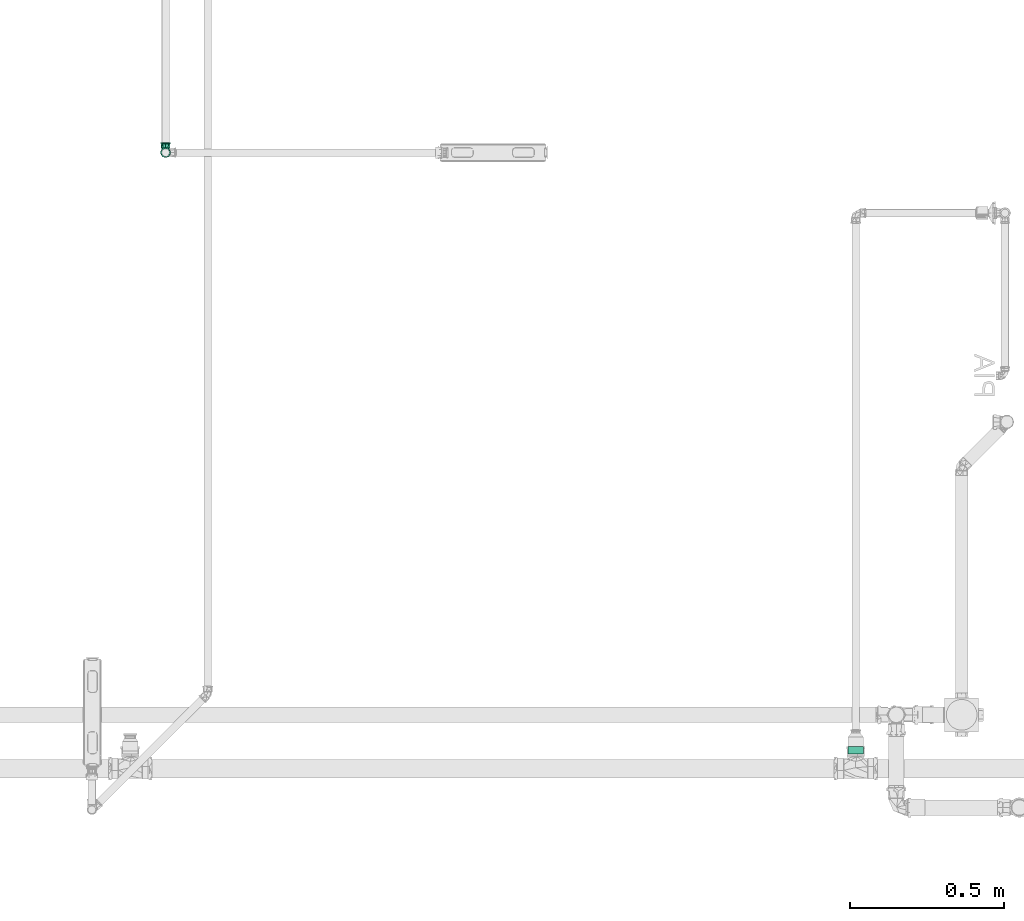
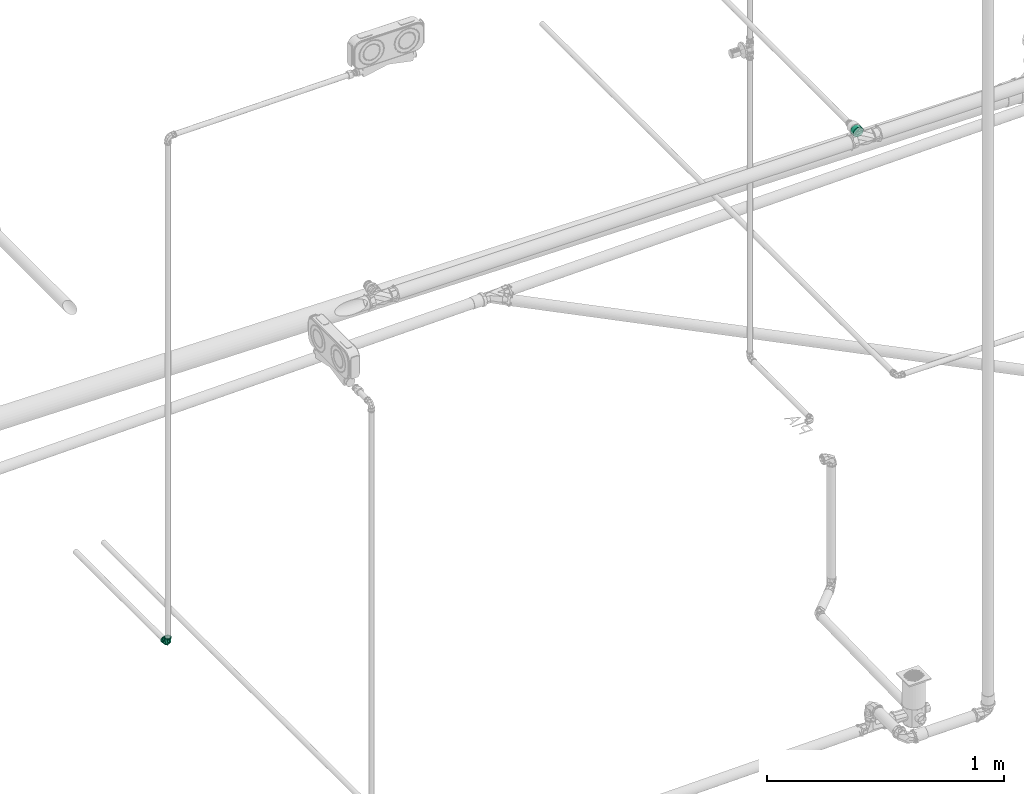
# One storey, part 367 of 589: 1 flow fitting, 1 flow segment.
"""IFC2X3 building model written with IfcOpenShell, lengths in millimetres."""

import ifcopenshell
import ifcopenshell.guid

model = None  # the IFC model being written
_history = None  # IfcOwnerHistory: only IFC2X3 demands one
_inside = {}  # id of a spatial element -> (the spatial element, [elements in it])
_under = {}  # id of a project, library or spatial element -> (it, [spatial elements below it])
_declared = {}  # id of a project -> (the project, [libraries it declares])
_typed = {}  # id of a type object -> (the type object, [elements of that type])
_made_of = {}  # id of a material, layer set ... -> (it, [elements and type objects made of it])


def new_model(schema):
    """Start an empty IFC model of exactly this schema.

    Asked for "IFC4X3", IfcOpenShell would pick the latest addendum, in which some entities
    have other attributes; the version numbers below select the first issue.
    IFC2X3 requires an IfcOwnerHistory on every rooted entity: one is made here for all.
    """
    global model, _history
    if schema == "IFC4X3":
        model = ifcopenshell.file(schema_version=(4, 3, 0, 0))
    else:
        model = ifcopenshell.file(schema=schema)
    _inside.clear()
    _under.clear()
    _declared.clear()
    _typed.clear()
    _made_of.clear()
    _history = None
    if model.schema == "IFC2X3":
        org = make("IfcOrganization", Name="unknown")
        user = make(
            "IfcPersonAndOrganization",
            ThePerson=make("IfcPerson", FamilyName="unknown"),
            TheOrganization=org,
        )
        app = make(
            "IfcApplication",
            ApplicationDeveloper=org,
            Version="unknown",
            ApplicationFullName="unknown",
            ApplicationIdentifier="unknown",
        )
        _history = make(
            "IfcOwnerHistory",
            OwningUser=user,
            OwningApplication=app,
            ChangeAction="ADDED",
            CreationDate=0,
        )
    return model


def make(cls, **values):
    """One entity of the class cls with the attributes given. An attribute that is None is left unset."""
    return model.create_entity(
        cls, **{name: value for name, value in values.items() if value is not None}
    )


def entity(cls, *values):
    """Any entity or typed value of the class cls, its attributes in the order of the schema. None: left unset."""
    e = model.create_entity(cls)
    for i, value in enumerate(values):
        if value is not None:
            e[i] = value
    return e


def rooted(cls, **values):
    """An entity with a GlobalId (a new one), such as an element, a storey or a relation."""
    return make(cls, GlobalId=ifcopenshell.guid.new(), OwnerHistory=_history, **values)


def si_unit(unit_type, name, prefix=None):
    """IfcSIUnit, for example si_unit("LENGTHUNIT", "METRE", prefix="MILLI")."""
    return make("IfcSIUnit", UnitType=unit_type, Prefix=prefix, Name=name)


def converted_unit(unit_type, name, factor, base, dimensions=None, offset=None):
    """IfcConversionBasedUnit, such as the inch: factor (a typed value) times the base unit."""
    return make(
        "IfcConversionBasedUnit"
        if offset is None
        else "IfcConversionBasedUnitWithOffset",
        ConversionOffset=offset,
        Dimensions=None
        if dimensions is None
        else entity("IfcDimensionalExponents", *dimensions),
        UnitType=unit_type,
        Name=name,
        ConversionFactor=make(
            "IfcMeasureWithUnit", ValueComponent=factor, UnitComponent=base
        ),
    )


def derived_unit(unit_type, elements):
    """IfcDerivedUnit: a product of units, each with its exponent."""
    return make(
        "IfcDerivedUnit",
        Elements=[
            make("IfcDerivedUnitElement", Unit=unit, Exponent=power)
            for unit, power in elements
        ],
        UnitType=unit_type,
    )


def assignment(units):
    """IfcUnitAssignment: the units of a project."""
    return None if units is None else make("IfcUnitAssignment", Units=units)


def point(xyz):
    """IfcCartesianPoint."""
    return None if xyz is None else make("IfcCartesianPoint", Coordinates=xyz)


def direction(xyz):
    """IfcDirection."""
    return None if xyz is None else make("IfcDirection", DirectionRatios=xyz)


def frame(location, z_axis=None, x_axis=None):
    """IfcAxis2Placement3D, a coordinate frame: its origin and axes. An axis left out is left unset."""
    return make(
        "IfcAxis2Placement3D",
        Location=point(location),
        Axis=direction(z_axis),
        RefDirection=direction(x_axis),
    )


def frame_2d(location, x_axis=None):
    """IfcAxis2Placement2D, a coordinate frame in the plane: its origin and x axis."""
    return make(
        "IfcAxis2Placement2D", Location=point(location), RefDirection=direction(x_axis)
    )


def origin():
    """The frame at (0, 0, 0) with its axes left unset."""
    return frame((0.0, 0.0, 0.0))


def origin_2d_with_axis():
    """The frame at (0, 0) in the plane with the x axis (1, 0) written out."""
    return frame_2d((0.0, 0.0), x_axis=(1.0, 0.0))


def place(relative_to, where):
    """IfcLocalPlacement: puts the frame where relative to a parent placement (None: the world)."""
    return make(
        "IfcLocalPlacement", PlacementRelTo=relative_to, RelativePlacement=where
    )


def context(
    kind, dimensions, precision=None, world=None, true_north=None, identifier=None
):
    """IfcGeometricRepresentationContext, for example the 3D "Model" context."""
    return make(
        "IfcGeometricRepresentationContext",
        ContextIdentifier=identifier,
        ContextType=kind,
        CoordinateSpaceDimension=dimensions,
        Precision=precision,
        WorldCoordinateSystem=world,
        TrueNorth=true_north,
    )


def subcontext(parent, identifier, kind, view, scale=None):
    """IfcGeometricRepresentationSubContext, for example "Body" below "Model"."""
    return make(
        "IfcGeometricRepresentationSubContext",
        ContextIdentifier=identifier,
        ContextType=kind,
        ParentContext=parent,
        TargetScale=scale,
        TargetView=view,
    )


def project(units=None, contexts=None):
    """IfcProject with its units and contexts."""
    return rooted(
        "IfcProject",
        Name="project",
        RepresentationContexts=contexts,
        UnitsInContext=assignment(units),
    )


def spatial(cls, under=None, at=None, **own):
    """A site, building, storey or space (cls), placed at a placement, below another one or the project."""
    s = rooted(cls, ObjectPlacement=at, **own)
    if under is not None:
        _under.setdefault(under.id(), (under, []))[1].append(s)
    return s


def profile(cls, at=None, kind="AREA", **sizes):
    """A parametric profile (cls). Its sizes go by their IFC names, for example OverallWidth=200.0."""
    return make(cls, ProfileType=kind, Position=at, **sizes)


def circle(**sizes):
    """IfcCircleProfileDef."""
    return profile("IfcCircleProfileDef", **sizes)


def extrude(swept, where, along, depth):
    """IfcExtrudedAreaSolid: the profile swept, set in the frame where, extruded along a direction by depth."""
    return make(
        "IfcExtrudedAreaSolid",
        SweptArea=swept,
        Position=where,
        ExtrudedDirection=direction(along),
        Depth=depth,
    )


def faces_of(points, faces, orient=None, outer=None):
    """IfcFace entities. A face is a list of loops; a loop is a list of indices into points, from 0.

    orient and outer hold one flag for each loop. By default every Orientation is true, the
    first loop of a face is its IfcFaceOuterBound and the others are IfcFaceBound.
    """
    made = []
    for i, loops in enumerate(faces):
        bounds = []
        for j, loop in enumerate(loops):
            is_outer = j == 0 if outer is None else outer[i][j]
            bounds.append(
                make(
                    "IfcFaceOuterBound" if is_outer else "IfcFaceBound",
                    Bound=make("IfcPolyLoop", Polygon=[points[k] for k in loop]),
                    Orientation=True if orient is None else orient[i][j],
                )
            )
        made.append(make("IfcFace", Bounds=bounds))
    return made


def faceted_brep(points, faces, orient=None, outer=None, voids=None):
    """IfcFacetedBrep: a solid bounded by flat faces; with voids (closed shells), ...WithVoids."""
    shared = [point(p) for p in points]
    hull = make("IfcClosedShell", CfsFaces=faces_of(shared, faces, orient, outer))
    if voids is None:
        return make("IfcFacetedBrep", Outer=hull)
    return make(
        "IfcFacetedBrepWithVoids",
        Outer=hull,
        Voids=[
            make(cls, CfsFaces=faces_of(shared, fs, o, b)) for cls, fs, o, b in voids
        ],
    )


def shape(context_of_items, identifier, shape_type, items):
    """IfcShapeRepresentation: the items that make up one representation, for example the "Body"."""
    return make(
        "IfcShapeRepresentation",
        ContextOfItems=context_of_items,
        RepresentationIdentifier=identifier,
        RepresentationType=shape_type,
        Items=items,
    )


def source(mapping_origin, context_of_items, identifier, shape_type, items):
    """IfcRepresentationMap: a shape defined once, which mapped items show again and again."""
    return make(
        "IfcRepresentationMap",
        MappingOrigin=mapping_origin,
        MappedRepresentation=shape(context_of_items, identifier, shape_type, items),
    )


def transform(
    local_origin,
    x_axis=None,
    y_axis=None,
    z_axis=None,
    scale=None,
    scale2=None,
    scale3=None,
    uniform=True,
):
    """IfcCartesianTransformationOperator3D, or its non-uniform kind. x_axis, y_axis, z_axis: its Axis1, 2, 3."""
    if uniform:
        return make(
            "IfcCartesianTransformationOperator3D",
            Axis1=direction(x_axis),
            Axis2=direction(y_axis),
            LocalOrigin=point(local_origin),
            Scale=scale,
            Axis3=direction(z_axis),
        )
    return make(
        "IfcCartesianTransformationOperator3DnonUniform",
        Axis1=direction(x_axis),
        Axis2=direction(y_axis),
        LocalOrigin=point(local_origin),
        Scale=scale,
        Axis3=direction(z_axis),
        Scale2=scale2,
        Scale3=scale3,
    )


def mapped(mapping_source, mapping_target):
    """IfcMappedItem: shows the shape of a source again, moved by a transform."""
    return make(
        "IfcMappedItem", MappingSource=mapping_source, MappingTarget=mapping_target
    )


def material(Name=None, Category=None):
    """IfcMaterial."""
    return make("IfcMaterial", Name=Name, Category=Category)


def made_of(thing, what):
    """Note that an element or type object is made of a material, layer set ...; save() writes the relation."""
    if what is not None:
        _made_of.setdefault(what.id(), (what, []))[1].append(thing)
    return thing


def type_object(cls, material=None, **own):
    """A type object (cls), such as IfcWallType, which elements share."""
    return made_of(rooted(cls, **own), material)


def type_shapes(of_type, sources):
    """Give a type object the sources (RepresentationMaps) that its elements show as mapped items."""
    of_type.RepresentationMaps = sources


def element(
    cls,
    number,
    at=None,
    inside=None,
    cuts=None,
    type_object=None,
    material=None,
    context=None,
    identifier="Body",
    shape_type=None,
    held_by="IfcProductDefinitionShape",
    body=None,
    shapes=None,
    **own,
):
    """One element of the class cls, such as IfcWall. Its Tag is "e" and its number.

    at: its placement. inside: the storey or other place that contains it. cuts: it is an
    opening in that element (IfcRelVoidsElement). A single representation is given by context,
    identifier, shape_type and body (its items); several are given by shapes. held_by: the class
    of the entity that holds the representations. save() writes the other relations.
    """
    e = rooted(cls, Tag="e%d" % number, ObjectPlacement=at, **own)
    if body is not None:
        shapes = [shape(context, identifier, shape_type, body)]
    if shapes is not None:
        e.Representation = make(held_by, Representations=shapes)
    if inside is not None:
        _inside.setdefault(inside.id(), (inside, []))[1].append(e)
    if cuts is not None:
        rooted(
            "IfcRelVoidsElement", RelatingBuildingElement=cuts, RelatedOpeningElement=e
        )
    if type_object is not None:
        _typed.setdefault(type_object.id(), (type_object, []))[1].append(e)
    return made_of(e, material)


def aggregate(whole, parts):
    """IfcRelAggregates: a whole, such as a stair, and the parts it consists of."""
    return rooted("IfcRelAggregates", RelatingObject=whole, RelatedObjects=parts)


def save(model, path):
    """Write the relations noted so far, then the file.

    IfcRelAggregates (storeys below a building ...), IfcRelContainedInSpatialStructure (elements
    in a storey), IfcRelDefinesByType, IfcRelAssociatesMaterial and IfcRelDeclares: one each for
    every whole, place, type object, material and project.
    """
    for whole, parts in _under.values():
        aggregate(whole, parts)
    for where, things in _inside.values():
        rooted(
            "IfcRelContainedInSpatialStructure",
            RelatedElements=things,
            RelatingStructure=where,
        )
    for kind, things in _typed.values():
        rooted("IfcRelDefinesByType", RelatedObjects=things, RelatingType=kind)
    for what, things in _made_of.values():
        rooted("IfcRelAssociatesMaterial", RelatedObjects=things, RelatingMaterial=what)
    for by, libraries in _declared.values():
        rooted("IfcRelDeclares", RelatingContext=by, RelatedDefinitions=libraries)
    model.write(path)


model = new_model("IFC2X3")

# Units and contexts
model_context = context("Model", 3, precision=0.01, world=origin(), true_north=direction((6.123031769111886e-17, 1.0)))
body_context = subcontext(model_context, "Body", "Model", "MODEL_VIEW")
ifc_project = project(units=[si_unit("LENGTHUNIT", "METRE", prefix="MILLI"), si_unit("AREAUNIT", "SQUARE_METRE"), si_unit("VOLUMEUNIT", "CUBIC_METRE"), converted_unit("PLANEANGLEUNIT", "DEGREE", entity("IfcRatioMeasure", 0.017453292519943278), si_unit("PLANEANGLEUNIT", "RADIAN"), dimensions=[0, 0, 0, 0, 0, 0, 0]), si_unit("MASSUNIT", "GRAM", prefix="KILO"), derived_unit("MASSDENSITYUNIT", [(si_unit("MASSUNIT", "GRAM", prefix="KILO"), 1), (si_unit("LENGTHUNIT", "METRE"), -3)]), derived_unit("IONCONCENTRATIONUNIT", [(si_unit("MASSUNIT", "GRAM", prefix="KILO"), 1), (si_unit("LENGTHUNIT", "METRE"), -3)]), derived_unit("MOMENTOFINERTIAUNIT", [(si_unit("LENGTHUNIT", "METRE"), 4)]), si_unit("TIMEUNIT", "SECOND"), si_unit("FREQUENCYUNIT", "HERTZ"), si_unit("THERMODYNAMICTEMPERATUREUNIT", "DEGREE_CELSIUS"), derived_unit("THERMALTRANSMITTANCEUNIT", [(si_unit("MASSUNIT", "GRAM", prefix="KILO"), 1), (si_unit("THERMODYNAMICTEMPERATUREUNIT", "KELVIN"), -1), (si_unit("TIMEUNIT", "SECOND"), -3)]), derived_unit("THERMALCONDUCTANCEUNIT", [(si_unit("MASSUNIT", "GRAM", prefix="KILO"), 1), (si_unit("THERMODYNAMICTEMPERATUREUNIT", "KELVIN"), -1), (si_unit("TIMEUNIT", "SECOND"), -3), (si_unit("LENGTHUNIT", "METRE"), 1)]), derived_unit("VOLUMETRICFLOWRATEUNIT", [(si_unit("LENGTHUNIT", "METRE"), 3), (si_unit("TIMEUNIT", "SECOND"), -1)]), derived_unit("MASSFLOWRATEUNIT", [(si_unit("MASSUNIT", "GRAM", prefix="KILO"), 1), (si_unit("TIMEUNIT", "SECOND"), -1)]), derived_unit("ROTATIONALFREQUENCYUNIT", [(si_unit("TIMEUNIT", "SECOND"), -1)]), si_unit("ELECTRICCURRENTUNIT", "AMPERE"), si_unit("ELECTRICVOLTAGEUNIT", "VOLT"), si_unit("POWERUNIT", "WATT"), si_unit("FORCEUNIT", "NEWTON", prefix="KILO"), si_unit("ILLUMINANCEUNIT", "LUX"), si_unit("LUMINOUSFLUXUNIT", "LUMEN"), si_unit("LUMINOUSINTENSITYUNIT", "CANDELA"), derived_unit("USERDEFINED", [(si_unit("MASSUNIT", "GRAM", prefix="KILO"), -1), (si_unit("LENGTHUNIT", "METRE"), -2), (si_unit("TIMEUNIT", "SECOND"), 3), (si_unit("LUMINOUSFLUXUNIT", "LUMEN"), 1)]), derived_unit("USERDEFINED", [(si_unit("MASSUNIT", "GRAM", prefix="KILO"), 1), (si_unit("TIMEUNIT", "SECOND"), -3), (si_unit("LENGTHUNIT", "METRE"), 3), (si_unit("ELECTRICCURRENTUNIT", "AMPERE"), -2)]), derived_unit("SOUNDPOWERUNIT", [(si_unit("MASSUNIT", "GRAM", prefix="KILO"), 1), (si_unit("TIMEUNIT", "SECOND"), -3), (si_unit("LENGTHUNIT", "METRE"), 2)]), derived_unit("SOUNDPRESSUREUNIT", [(si_unit("MASSUNIT", "GRAM", prefix="KILO"), 1), (si_unit("LENGTHUNIT", "METRE"), -1), (si_unit("TIMEUNIT", "SECOND"), -2)]), derived_unit("LINEARVELOCITYUNIT", [(si_unit("LENGTHUNIT", "METRE"), 1), (si_unit("TIMEUNIT", "SECOND"), -1)]), si_unit("PRESSUREUNIT", "PASCAL"), derived_unit("USERDEFINED", [(si_unit("MASSUNIT", "GRAM", prefix="KILO"), 1), (si_unit("LENGTHUNIT", "METRE"), -2), (si_unit("TIMEUNIT", "SECOND"), -2)]), derived_unit("LINEARFORCEUNIT", [(si_unit("MASSUNIT", "GRAM", prefix="KILO"), 1), (si_unit("TIMEUNIT", "SECOND"), -2)]), derived_unit("PLANARFORCEUNIT", [(si_unit("MASSUNIT", "GRAM", prefix="KILO"), 1), (si_unit("LENGTHUNIT", "METRE"), -1), (si_unit("TIMEUNIT", "SECOND"), -2)]), derived_unit("SPECIFICHEATCAPACITYUNIT", [(si_unit("THERMODYNAMICTEMPERATUREUNIT", "KELVIN"), -1), (si_unit("LENGTHUNIT", "METRE"), 2), (si_unit("TIMEUNIT", "SECOND"), -2)]), derived_unit("HEATINGVALUEUNIT", [(si_unit("LENGTHUNIT", "METRE"), 2), (si_unit("TIMEUNIT", "SECOND"), -2)]), derived_unit("VAPORPERMEABILITYUNIT", [(si_unit("LENGTHUNIT", "METRE"), -1), (si_unit("TIMEUNIT", "SECOND"), 1)]), derived_unit("DYNAMICVISCOSITYUNIT", [(si_unit("MASSUNIT", "GRAM", prefix="KILO"), 1), (si_unit("TIMEUNIT", "SECOND"), -1), (si_unit("LENGTHUNIT", "METRE"), -1)]), derived_unit("THERMALEXPANSIONCOEFFICIENTUNIT", [(si_unit("THERMODYNAMICTEMPERATUREUNIT", "KELVIN"), -1)]), derived_unit("MODULUSOFELASTICITYUNIT", [(si_unit("MASSUNIT", "GRAM", prefix="KILO"), 1), (si_unit("LENGTHUNIT", "METRE"), -1), (si_unit("TIMEUNIT", "SECOND"), -2)]), derived_unit("ISOTHERMALMOISTURECAPACITYUNIT", [(si_unit("LENGTHUNIT", "METRE"), 3), (si_unit("MASSUNIT", "GRAM", prefix="KILO"), -1)]), derived_unit("MOISTUREDIFFUSIVITYUNIT", [(si_unit("TIMEUNIT", "SECOND"), -1), (si_unit("LENGTHUNIT", "METRE"), 2)])], contexts=[model_context])

# Site, building, storey
site_placement = place(None, origin())
site = spatial("IfcSite", under=ifc_project, at=site_placement, Name="Default", CompositionType="ELEMENT")
building_placement = place(site_placement, origin())
building = spatial("IfcBuilding", under=site, at=building_placement, CompositionType="ELEMENT")
storey_placement = place(building_placement, frame((0.0, 0.0, 100.0)))
storey = spatial("IfcBuildingStorey", under=building, at=storey_placement, Name="TÉRREO", CompositionType="ELEMENT", Elevation=100.0)

# Flow segment
pipe_segment_type = type_object("IfcPipeSegmentType", Name="Tipos de tubos:PVC Marrom Soldável", PredefinedType="NOTDEFINED")
flow_segment_placement = place(storey_placement, origin())
element("IfcFlowSegment", 1, at=flow_segment_placement, inside=storey, type_object=pipe_segment_type, Name="Tipos de tubos:PVC Marrom Soldável", ObjectType="Tipos de tubos:PVC Marrom Soldável", context=body_context, shape_type="SweptSolid", body=[
    extrude(circle(Radius=25.0, at=origin_2d_with_axis()), frame((-3231.759862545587, -480.92413776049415, 3000.0), z_axis=(0.0, 1.0, 0.0), x_axis=(1.0, 0.0, 0.0)), (0.0, 0.0, 1.0), 23.40000000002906),
])

# Flow fitting
ifc_material = material(Name="PVC Marrom")
pipe_fitting_type = type_object("IfcPipeFittingType", Name="PVC Marrom Soldável_Joelho 45°_90°_Rodrigo MEP:Joelho", PredefinedType="NOTDEFINED", material=ifc_material)
shared_shape = source(origin(), body_context, "Body", "Brep", [
    faceted_brep([(3.908167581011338, 15.40000000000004, 14.585479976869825), (13.076983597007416, 15.40000000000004, 7.549999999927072), (15.099999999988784, 15.40000000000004, 0.0), (13.076983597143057, 15.40000000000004, -7.55000000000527), (3.9081675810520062, 15.40000000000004, -14.585479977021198), (-3.9081675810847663, 15.40000000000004, -14.585479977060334), (-13.076983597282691, 15.40000000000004, -7.550000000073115), (-15.100000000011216, 15.40000000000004, 0.0), (-13.076983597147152, 15.40000000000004, 7.549999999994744), (-3.908167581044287, 15.40000000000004, 14.585479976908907), (-3.633819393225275, 14.30000000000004, 13.561598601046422), (-12.158996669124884, 14.30000000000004, 7.0199999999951), (-14.040000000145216, 14.30000000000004, 0.0), (-12.158996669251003, 14.30000000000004, -7.020000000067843), (-3.6338193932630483, 14.30000000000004, -13.561598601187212), (3.6338193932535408, 14.30000000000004, -13.561598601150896), (12.158996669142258, 14.30000000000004, -7.020000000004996), (14.039999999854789, 14.30000000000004, 0.0), (12.158996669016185, 14.30000000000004, 7.0199999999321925), (3.6338193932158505, 14.30000000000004, 13.561598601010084)], [[[0, 1, 2, 3, 4, 5, 6, 7, 8, 9]], [[10, 11, 12, 13, 14, 15, 16, 17, 18, 19]], [[3, 17, 16]], [[4, 3, 16, 15]], [[3, 2, 17]], [[15, 14, 5, 4]], [[6, 5, 14, 13]], [[7, 13, 12]], [[7, 6, 13]], [[8, 12, 11]], [[9, 8, 11, 10]], [[8, 7, 12]], [[10, 19, 0, 9]], [[1, 0, 19, 18]], [[2, 18, 17]], [[2, 1, 18]]]),
    faceted_brep([(-15.399999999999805, 3.908167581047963, 14.585479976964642), (-15.399999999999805, 13.076983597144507, 7.549999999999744), (-15.399999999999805, 15.100000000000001, 0.0), (-15.399999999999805, 13.076983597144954, -7.54999999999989), (-15.399999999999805, 3.9081675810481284, -14.58547997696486), (-15.399999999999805, -3.9081675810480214, -14.585479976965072), (-15.399999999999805, -13.0769835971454, -7.550000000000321), (-15.399999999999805, -15.099999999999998, 0.0), (-15.399999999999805, -13.076983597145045, 7.550000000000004), (-15.399999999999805, -3.908167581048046, 14.585479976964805), (-14.299999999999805, 12.158996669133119, 7.019999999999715), (-14.299999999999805, 3.6338193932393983, 13.561598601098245), (-14.299999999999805, -3.633819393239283, 13.56159860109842), (-14.299999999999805, -12.15899666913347, 7.020000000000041), (-14.299999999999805, -14.040000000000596, 0.0), (-14.299999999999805, -12.158996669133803, -7.020000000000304), (-14.299999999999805, -3.63381939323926, -13.561598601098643), (-14.299999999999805, 3.6338193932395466, -13.56159860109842), (-14.299999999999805, 12.158996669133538, -7.019999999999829), (-14.299999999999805, 14.03999999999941, 0.0)], [[[0, 1, 2, 3, 4, 5, 6, 7, 8, 9]], [[10, 11, 12, 13, 14, 15, 16, 17, 18, 19]], [[3, 2, 19, 18]], [[4, 3, 18, 17]], [[17, 16, 5, 4]], [[6, 5, 16, 15]], [[7, 6, 15, 14]], [[8, 7, 14, 13]], [[9, 8, 13, 12]], [[12, 11, 0, 9]], [[1, 0, 11, 10]], [[2, 1, 10, 19]]]),
    faceted_brep([(-33.4999999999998, -4.2705142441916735, -15.937776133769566), (-33.4999999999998, -6.250000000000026, -10.825317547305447), (-33.4999999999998, 0.0, -12.5), (-33.4999999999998, -14.289419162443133, -8.25000000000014), (-33.4999999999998, 4.270514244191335, -15.937776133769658), (-33.4999999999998, -12.074072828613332, -3.23523806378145), (-33.4999999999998, -16.499999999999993, 0.0), (-33.4999999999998, -12.074072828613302, 3.2352380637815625), (-33.4999999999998, -14.289419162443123, 8.249999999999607), (-33.4999999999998, -6.249999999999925, 10.825317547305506), (-33.4999999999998, -4.27051424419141, 15.937776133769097), (-33.4999999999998, 0.0, 12.5), (-33.4999999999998, 4.270514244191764, 15.937776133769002), (-33.4999999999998, 6.249999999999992, 10.825317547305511), (-33.4999999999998, 14.28941916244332, 8.249999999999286), (-33.4999999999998, 12.074072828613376, 3.2352380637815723), (-33.4999999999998, 16.500000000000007, 0.0), (-33.4999999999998, 12.074072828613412, -3.235238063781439), (-33.4999999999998, 14.289419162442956, -8.250000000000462), (-33.4999999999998, 6.250000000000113, -10.82531754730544), (-29.499999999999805, 16.5, 0.0), (-29.500000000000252, 12.639142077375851, 10.606700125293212), (-29.50000000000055, 2.8633833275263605, 16.249647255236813), (-29.50000000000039, -12.64180232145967, 10.603529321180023), (-29.499999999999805, -16.499999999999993, 0.0), (-29.500000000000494, -4.889209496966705, 13.426588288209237), (-29.49999999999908, -12.641802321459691, -10.603529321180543), (-29.49999999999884, -2.8674593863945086, -16.24892847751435), (-29.499999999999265, 12.639142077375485, -10.606700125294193), (-29.499999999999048, 4.885841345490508, -13.427814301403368), (-28.099999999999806, -15.099999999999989, 0.0), (-28.10000000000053, -11.56916454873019, 9.703835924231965), (-28.100000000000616, -4.474367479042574, 12.287362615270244), (-28.1000000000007, 2.6204295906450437, 14.870889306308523), (-28.100000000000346, 11.566730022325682, 9.706737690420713), (-28.09999999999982, 15.099999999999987, 0.0), (-28.099999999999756, 11.566730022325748, -9.706737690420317), (-28.09999999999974, 4.4712851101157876, -12.28848460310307), (-28.09999999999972, -2.6241598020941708, -14.870231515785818), (-28.09999999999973, -11.569164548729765, -9.703835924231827), (-15.399999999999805, 0.0, -12.5), (-15.399999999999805, -6.250000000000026, -10.825317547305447), (-15.399999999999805, -3.908167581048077, -14.585479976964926), (-15.399999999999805, 3.9081675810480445, -14.585479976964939), (-15.399999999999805, 6.250000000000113, -10.82531754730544), (-15.399999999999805, -13.076983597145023, -7.549999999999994), (-15.399999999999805, -12.074072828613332, -3.23523806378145), (-15.399999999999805, -15.099999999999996, 0.0), (-15.399999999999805, -12.074072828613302, 3.2352380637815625), (-15.399999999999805, -13.076983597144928, 7.550000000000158), (-15.399999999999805, -6.249999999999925, 10.825317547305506), (-15.399999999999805, -3.9081675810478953, 14.585479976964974), (-15.399999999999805, 0.0, 12.5), (-15.399999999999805, 3.9081675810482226, 14.58547997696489), (-15.399999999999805, 6.249999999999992, 10.825317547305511), (-15.399999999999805, 13.076983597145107, 7.549999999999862), (-15.399999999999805, 12.074072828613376, 3.2352380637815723), (-15.399999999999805, 15.100000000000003, 0.0), (-15.399999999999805, 12.074072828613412, -3.235238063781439), (-15.399999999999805, 13.076983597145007, -7.550000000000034)], [[[0, 1, 2]], [[1, 0, 3]], [[2, 4, 0]], [[3, 5, 1]], [[3, 6, 5]], [[5, 6, 7]], [[8, 7, 6]], [[7, 8, 9]], [[10, 9, 8]], [[9, 10, 11]], [[11, 10, 12]], [[12, 13, 11]], [[14, 13, 12]], [[13, 14, 15]], [[16, 15, 14]], [[16, 17, 15]], [[18, 17, 16]], [[19, 17, 18]], [[19, 18, 4]], [[4, 2, 19]], [[16, 14, 20]], [[14, 21, 20]], [[21, 14, 12]], [[21, 12, 22]], [[23, 10, 8]], [[24, 8, 6]], [[10, 23, 25, 22]], [[23, 8, 24]], [[10, 22, 12]], [[6, 3, 24]], [[3, 26, 24]], [[26, 3, 0]], [[26, 0, 27]], [[28, 4, 18]], [[20, 18, 16]], [[4, 28, 29, 27]], [[28, 18, 20]], [[4, 27, 0]], [[30, 31, 23, 24]], [[31, 32, 33, 22, 25, 23]], [[34, 35, 20, 21]], [[34, 21, 22, 33]], [[35, 36, 28, 20]], [[36, 37, 38, 27, 29, 28]], [[39, 30, 24, 26]], [[39, 26, 27, 38]], [[40, 41, 42]], [[42, 43, 40]], [[44, 40, 43]], [[45, 42, 41]], [[41, 46, 45]], [[46, 47, 45]], [[48, 47, 46]], [[47, 48, 49]], [[50, 49, 48]], [[49, 50, 51]], [[52, 51, 50]], [[53, 51, 52]], [[52, 54, 53]], [[53, 54, 55]], [[56, 55, 54]], [[55, 56, 57]], [[56, 58, 57]], [[59, 58, 44]], [[57, 58, 59]], [[43, 59, 44]], [[35, 34, 55]], [[35, 55, 57]], [[55, 34, 53]], [[34, 33, 53]], [[51, 33, 32, 31]], [[49, 31, 30]], [[31, 49, 51]], [[49, 30, 47]], [[33, 51, 53]], [[30, 39, 45]], [[30, 45, 47]], [[45, 39, 42]], [[39, 38, 42]], [[43, 38, 37, 36]], [[59, 36, 35]], [[36, 59, 43]], [[59, 35, 57]], [[38, 43, 42]], [[9, 11, 52, 50]], [[7, 9, 50, 48]], [[48, 46, 5, 7]], [[1, 5, 46, 41]], [[2, 1, 41, 40]], [[19, 2, 40, 44]], [[17, 19, 44, 58]], [[58, 56, 15, 17]], [[13, 15, 56, 54]], [[11, 13, 54, 52]]]),
    faceted_brep([(-14.299999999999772, -3.6338193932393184, -13.561598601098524), (-14.299999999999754, -12.158996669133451, -7.020000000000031), (-14.29999999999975, -14.039999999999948, 0.0), (-14.299999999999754, -12.158996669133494, 7.019999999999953), (-14.299999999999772, -3.6338193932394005, 13.561598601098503), (-14.299999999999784, 3.633819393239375, 13.561598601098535), (-14.299999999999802, 12.158996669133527, 7.0200000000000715), (-14.299999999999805, 14.04000000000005, 0.0), (-14.299999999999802, 12.158996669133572, -7.019999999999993), (-14.299999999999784, 3.63381939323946, -13.561598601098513), (3.633819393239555, 14.29999999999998, -13.561598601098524), (-3.633819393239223, 14.300000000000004, -13.561598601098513), (-12.158996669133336, 14.300000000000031, -7.019999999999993), (-14.039999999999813, 14.300000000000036, 0.0), (-12.158996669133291, 14.300000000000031, 7.0200000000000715), (-3.6338193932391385, 14.300000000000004, 13.561598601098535), (3.6338193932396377, 14.29999999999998, 13.561598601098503), (12.158996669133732, 14.299999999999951, 7.019999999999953), (14.040000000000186, 14.299999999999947, 0.0), (12.158996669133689, 14.299999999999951, -7.020000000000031), (-0.45476175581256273, 0.4547603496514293, 13.009299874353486), (-4.991226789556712, -9.102895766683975, 8.866254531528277), (-2.689013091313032, -7.336393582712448, 0.0), (3.7770734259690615, -3.6031967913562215, 0.0), (9.09033094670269, 4.905775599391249, 8.841582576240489), (10.243159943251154, 0.13000000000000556, 0.0), (-14.116152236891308, 14.116152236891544, 0.0), (-8.296884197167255, 8.29688403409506, 12.78130953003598), (-0.454761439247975, 0.45476027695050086, -13.009299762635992), (-8.296884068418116, 8.296883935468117, -12.78130960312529), (9.090330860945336, 4.90577564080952, -8.84158269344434), (-4.991226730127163, -9.10289574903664, -8.866254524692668)], [[[0, 1, 2, 3, 4, 5, 6, 7, 8, 9]], [[10, 11, 12, 13, 14, 15, 16, 17, 18, 19]], [[4, 20, 5]], [[21, 3, 22]], [[20, 4, 21]], [[21, 22, 23]], [[17, 24, 25]], [[26, 6, 14]], [[23, 20, 21]], [[26, 7, 6]], [[6, 5, 27]], [[3, 2, 22]], [[20, 23, 24]], [[25, 18, 17]], [[20, 27, 5]], [[16, 20, 24]], [[17, 16, 24]], [[6, 27, 14]], [[26, 14, 13]], [[21, 4, 3]], [[27, 15, 14]], [[27, 20, 15]], [[23, 25, 24]], [[15, 20, 16]], [[8, 7, 26]], [[28, 29, 11]], [[28, 10, 30]], [[8, 12, 29]], [[31, 22, 1]], [[31, 23, 22]], [[28, 9, 29]], [[19, 30, 10]], [[0, 28, 31]], [[1, 22, 2]], [[8, 26, 12]], [[12, 11, 29]], [[8, 29, 9]], [[31, 1, 0]], [[10, 28, 11]], [[30, 19, 25]], [[0, 9, 28]], [[19, 18, 25]], [[25, 23, 30]], [[23, 31, 28]], [[30, 23, 28]], [[12, 26, 13]]]),
    faceted_brep([(0.0, 15.40000000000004, -12.5), (-6.249999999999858, 15.40000000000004, -10.825317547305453), (-3.908167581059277, 15.40000000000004, -14.585479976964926), (3.9081675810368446, 15.40000000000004, -14.585479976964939), (6.250000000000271, 15.40000000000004, -10.82531754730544), (-13.076983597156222, 15.40000000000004, -7.549999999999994), (-12.07407282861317, 15.40000000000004, -3.235238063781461), (-15.100000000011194, 15.40000000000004, 0.0), (-12.074072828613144, 15.40000000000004, 3.2352380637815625), (-13.076983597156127, 15.40000000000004, 7.550000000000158), (-6.249999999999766, 15.40000000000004, 10.825317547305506), (-3.9081675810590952, 15.40000000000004, 14.585479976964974), (0.0, 15.40000000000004, 12.5), (3.9081675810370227, 15.40000000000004, 14.58547997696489), (6.250000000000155, 15.40000000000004, 10.825317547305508), (13.076983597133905, 15.40000000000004, 7.549999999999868), (12.074072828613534, 15.40000000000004, 3.2352380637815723), (15.099999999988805, 15.40000000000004, 0.0), (12.07407282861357, 15.40000000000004, -3.235238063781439), (13.07698359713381, 15.40000000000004, -7.550000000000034), (15.099999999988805, 28.10000000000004, 0.0), (11.56673002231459, 28.100000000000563, 9.706737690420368), (4.471285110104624, 28.10000000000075, 12.288484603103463), (-2.624159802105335, 28.100000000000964, 14.870231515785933), (-11.569164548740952, 28.10000000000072, 9.703835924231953), (-15.100000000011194, 28.10000000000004, 0.0), (-11.569164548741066, 28.10000000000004, -9.703835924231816), (-4.474367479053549, 28.10000000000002, -12.287362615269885), (2.6204295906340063, 28.099999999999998, -14.870889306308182), (11.566730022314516, 28.10000000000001, -9.706737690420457), (-12.639142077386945, 29.50000000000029, 10.606700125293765), (-16.50000000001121, 29.500000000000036, 0.0), (-2.8633833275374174, 29.50000000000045, 16.249647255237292), (12.641802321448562, 29.500000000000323, 10.603529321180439), (4.889209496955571, 29.500000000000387, 13.426588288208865), (16.499999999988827, 29.50000000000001, 0.0), (12.64180232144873, 29.500000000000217, -10.603529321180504), (2.867459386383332, 29.500000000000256, -16.24892847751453), (-12.639142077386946, 29.500000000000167, -10.606700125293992), (-4.885841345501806, 29.500000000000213, -13.427814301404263), (-4.270514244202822, 33.50000000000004, -15.937776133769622), (-6.249999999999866, 33.50000000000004, -10.825317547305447), (0.0, 33.50000000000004, -12.5), (-14.289419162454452, 33.50000000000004, -8.249999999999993), (4.270514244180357, 33.50000000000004, -15.937776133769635), (-12.074072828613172, 33.50000000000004, -3.23523806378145), (-16.50000000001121, 33.50000000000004, 0.0), (-12.074072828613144, 33.50000000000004, 3.2352380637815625), (-14.28941916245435, 33.50000000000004, 8.250000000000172), (-6.2499999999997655, 33.50000000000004, 10.825317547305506), (-4.270514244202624, 33.50000000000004, 15.937776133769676), (0.0, 33.50000000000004, 12.5), (4.270514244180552, 33.50000000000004, 15.937776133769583), (6.250000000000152, 33.50000000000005, 10.825317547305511), (14.289419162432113, 33.50000000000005, 8.249999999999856), (12.074072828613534, 33.50000000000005, 3.2352380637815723), (16.49999999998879, 33.50000000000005, 0.0), (12.07407282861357, 33.50000000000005, -3.235238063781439), (14.289419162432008, 33.50000000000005, -8.250000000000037), (6.250000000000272, 33.50000000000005, -10.82531754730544)], [[[0, 1, 2]], [[2, 3, 0]], [[4, 0, 3]], [[5, 2, 1]], [[1, 6, 5]], [[6, 7, 5]], [[8, 7, 6]], [[7, 8, 9]], [[10, 9, 8]], [[9, 10, 11]], [[12, 11, 10]], [[13, 11, 12]], [[12, 14, 13]], [[13, 14, 15]], [[16, 15, 14]], [[15, 16, 17]], [[16, 18, 17]], [[19, 18, 4]], [[17, 18, 19]], [[3, 19, 4]], [[20, 21, 15]], [[20, 15, 17]], [[15, 21, 13]], [[13, 21, 22, 23]], [[11, 23, 24]], [[9, 24, 25]], [[24, 9, 11]], [[9, 25, 7]], [[23, 11, 13]], [[25, 26, 5]], [[25, 5, 7]], [[5, 26, 2]], [[2, 26, 27, 28]], [[3, 28, 29]], [[19, 29, 20]], [[29, 19, 3]], [[19, 20, 17]], [[28, 3, 2]], [[24, 23, 30]], [[25, 24, 31]], [[31, 24, 30]], [[23, 32, 30]], [[21, 20, 33]], [[21, 33, 34]], [[22, 32, 23]], [[35, 33, 20]], [[32, 22, 34]], [[22, 21, 34]], [[20, 29, 36]], [[36, 35, 20]], [[37, 36, 29]], [[38, 39, 27]], [[29, 28, 37]], [[26, 25, 31]], [[38, 27, 26]], [[38, 26, 31]], [[28, 39, 37]], [[39, 28, 27]], [[40, 41, 42]], [[41, 40, 43]], [[42, 44, 40]], [[43, 45, 41]], [[43, 46, 45]], [[45, 46, 47]], [[48, 47, 46]], [[47, 48, 49]], [[50, 49, 48]], [[49, 50, 51]], [[51, 50, 52]], [[52, 53, 51]], [[54, 53, 52]], [[53, 54, 55]], [[56, 55, 54]], [[56, 57, 55]], [[58, 57, 56]], [[59, 57, 58]], [[59, 58, 44]], [[44, 42, 59]], [[56, 54, 35]], [[54, 33, 35]], [[33, 54, 52]], [[52, 32, 34, 33]], [[30, 50, 48]], [[31, 48, 46]], [[50, 30, 32]], [[30, 48, 31]], [[50, 32, 52]], [[46, 43, 31]], [[43, 38, 31]], [[38, 43, 40]], [[40, 37, 39, 38]], [[36, 44, 58]], [[35, 58, 56]], [[44, 36, 37]], [[36, 58, 35]], [[44, 37, 40]], [[49, 51, 12, 10]], [[47, 49, 10, 8]], [[8, 6, 45, 47]], [[41, 45, 6, 1]], [[42, 41, 1, 0]], [[59, 42, 0, 4]], [[57, 59, 4, 18]], [[18, 16, 55, 57]], [[53, 55, 16, 14]], [[51, 53, 14, 12]]]),
])
type_shapes(pipe_fitting_type, [shared_shape])
flow_fitting_placement = place(storey_placement, frame((-5474.131532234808, 1472.3181323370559, -37.35253785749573), z_axis=(1.0, 0.0, -9.679762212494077e-06), x_axis=(-9.679762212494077e-06, 0.0, -1.0)))
element("IfcFlowFitting", 2, at=flow_fitting_placement, inside=storey, type_object=pipe_fitting_type, material=ifc_material, Name="PVC Marrom Soldável_Joelho 45°_90°_Rodrigo MEP:Joelho", ObjectType="PVC Marrom Soldável_Joelho 45°_90°_Rodrigo MEP:Joelho", context=body_context, shape_type="MappedRepresentation", body=[
    mapped(shared_shape, transform((0.0, 0.0, 0.0), scale=1.0)),
])

save(model, "model.ifc")
